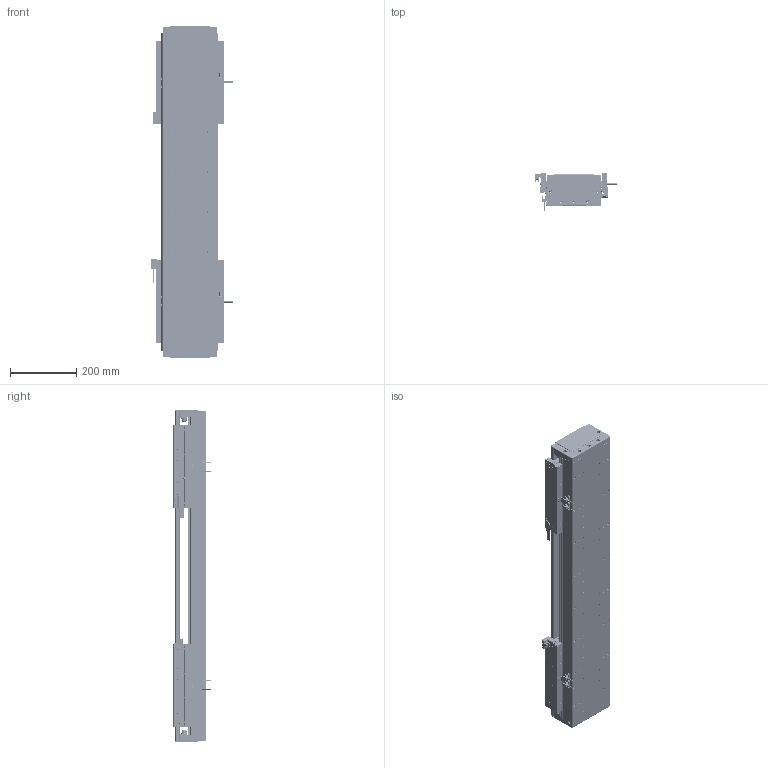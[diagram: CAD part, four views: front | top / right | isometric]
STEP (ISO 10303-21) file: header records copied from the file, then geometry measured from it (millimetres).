
FILE_DESCRIPTION (( 'STEP AP203' ), '1' );
FILE_NAME ('DA-C165-2-C3-T380-C010-0.2 直线电机.STEP', '2023-06-13T09:34:24', ( '微软用户' ), ( '微软中国' ), 'SwSTEP 2.0', 'SolidWorks 2019', '' );
FILE_SCHEMA (( 'CONFIG_CONTROL_DESIGN' ));
Length unit declared in the file: millimetre
Products named in the file (19): 复件 CU165 底座^IU-CU165-L 底座导轨_L960; 复件 DA126-GYP-ZJ-00 中间光电感应片^DA-C165-C3-T-C010-0.2-N 直线电机; 复件 DA95-HXJ-00 缓冲橡胶^DA-C165-C3-T-C010-0.2-N 直线电机; 葩璃 PM-Y45^DA-C165-C3-T-C010-0.2-N 眻盄萇儂; IU-CU165-L 菁釱絳寢; 复件 DKW-HXJ-JY-00 缓冲橡胶^DA-C165-C3-T-C010-0.2-N 直线电机; 葩璃 CKM03-W075-C1C2-TP-3.0^DA-C165-C3-T-C010-0.2-N 眻盄萇儂; 葩璃 DA95-GT-T-00^IU-CU165-L 菁釱絳寢_T; DA-C165-2-C3-T380-C010-0.2 眻盄萇儂; 复件 DA165-T-002-00 盖板^DA-C165-C3-T-C010-0.2-N 直线电机_0840-002-00; 珨极趙賑雄怢啣C3-wf; 复件 XD-U-02L 磁栅尺^DA-C165-C3-T-C010-0.2-N 直线电机_T; 复件 DA165-GYP-00 光电感应片^DA-C165-C3-T-C010-0.2-N 直线电机; 复件 六角薄螺母 M3^DA-C165-C3-T-C010-0.2-N 直线电机_GB_FASTENER_NUT_STNAB M3-C; 葩璃 CKM01-W075-TRL^DA-C165-C3-T-C010-0.2-N 眻盄萇儂; 复件 66338-1000-006-00 光电感应块^DA-C165-C3-T-C010-0.2-N 直线电机; 复件 DMA-010-0.2 读数头^DA-C165-C3-T-C010-0.2-N 直线电机; 葩璃 PM-T45^DA-C165-C3-T-C010-0.2-N 眻盄萇儂; 复件 DA165-DG-H-N-00 端盖^DA-C165-C3-T-C010-0.2-N 直线电机
Assembly tree (40 placements, depth 3):
  DA-C165-2-C3-T380-C010-0.2 眻盄萇儂
    IU-CU165-L 菁釱絳寢
      复件 CU165 底座^IU-CU165-L 底座导轨_L960
      葩璃 DA95-GT-T-00^IU-CU165-L 菁釱絳寢_T  x4
    复件 DA165-DG-H-N-00 端盖^DA-C165-C3-T-C010-0.2-N 直线电机  x2
    复件 DA95-HXJ-00 缓冲橡胶^DA-C165-C3-T-C010-0.2-N 直线电机  x4
    复件 DA165-T-002-00 盖板^DA-C165-C3-T-C010-0.2-N 直线电机_0840-002-00
    复件 XD-U-02L 磁栅尺^DA-C165-C3-T-C010-0.2-N 直线电机_T
    葩璃 PM-T45^DA-C165-C3-T-C010-0.2-N 眻盄萇儂  x4
    葩璃 CKM01-W075-TRL^DA-C165-C3-T-C010-0.2-N 眻盄萇儂
    复件 DMA-010-0.2 读数头^DA-C165-C3-T-C010-0.2-N 直线电机  x2
    复件 DA165-GYP-00 光电感应片^DA-C165-C3-T-C010-0.2-N 直线电机  x2
    复件 66338-1000-006-00 光电感应块^DA-C165-C3-T-C010-0.2-N 直线电机
    葩璃 PM-Y45^DA-C165-C3-T-C010-0.2-N 眻盄萇儂
    复件 DA126-GYP-ZJ-00 中间光电感应片^DA-C165-C3-T-C010-0.2-N 直线电机
    葩璃 CKM03-W075-C1C2-TP-3.0^DA-C165-C3-T-C010-0.2-N 眻盄萇儂  x2
    复件 DKW-HXJ-JY-00 缓冲橡胶^DA-C165-C3-T-C010-0.2-N 直线电机  x2
    复件 六角薄螺母 M3^DA-C165-C3-T-C010-0.2-N 直线电机_GB_FASTENER_NUT_STNAB M3-C  x8
    珨极趙賑雄怢啣C3-wf  x2
Bounding box: 247.2 x 111.45 x 1000 mm (x, y, z)
Volume: 10115380.1 mm3; surface area: 2487426.1 mm2
Topology: 117 solids, 217 shells, 5714 faces, 14773 edges, 9040 vertices
Faces by surface type: cylinder 2688, plane 1974, cone 956, torus 88, sphere 8
Entity records: 107670 total; most frequent: CARTESIAN_POINT 24668, DIRECTION 17161, ORIENTED_EDGE 16432, EDGE_CURVE 8216, AXIS2_PLACEMENT_3D 6447, VERTEX_POINT 5294, LINE 4267, VECTOR 4267
